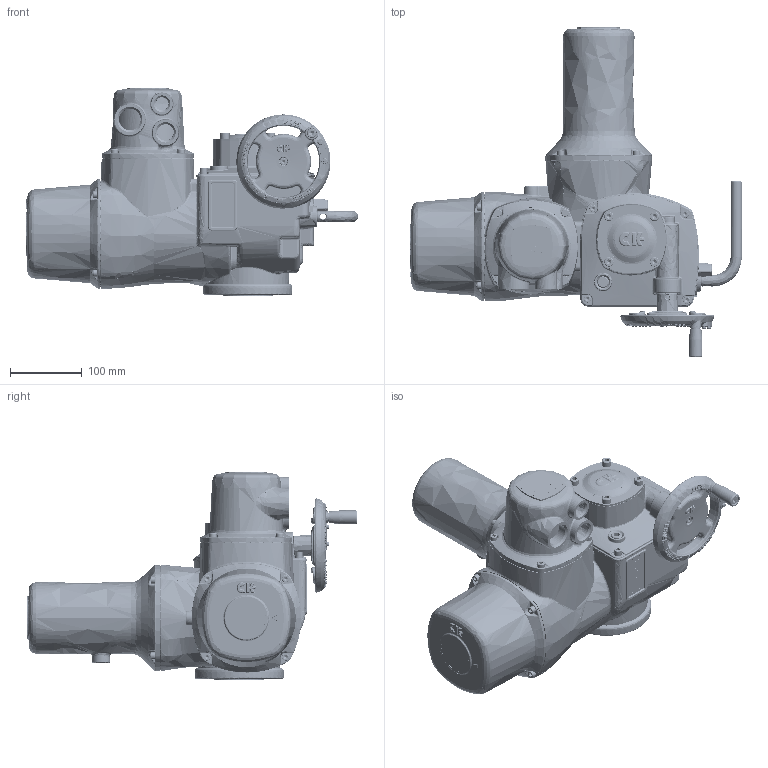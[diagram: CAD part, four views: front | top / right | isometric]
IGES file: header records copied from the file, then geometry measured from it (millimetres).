
Start section: C
Global section: file name: CK120 F10 NON THRUST BASE -AID.igs; native system: By Siemens PLM Incorporated; preprocessor: XPlus GENERIC/IGES 19.0.9; author: Author; organization: Title; date: 20170823.183709; units: millimetre
Bounding box: 464.35 x 462.65 x 292.21 mm (x, y, z)
Surface area: 505743 mm2 (no closed solid volume)
Topology: 0 solids, 0 shells, 4965 faces, 28697 edges, 28448 vertices
Faces by surface type: bspline 4965
